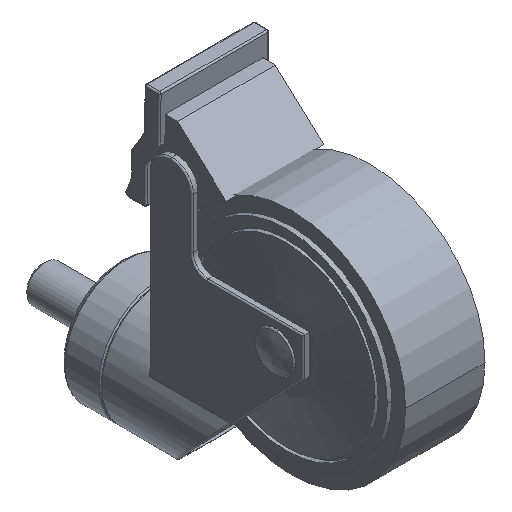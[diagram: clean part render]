
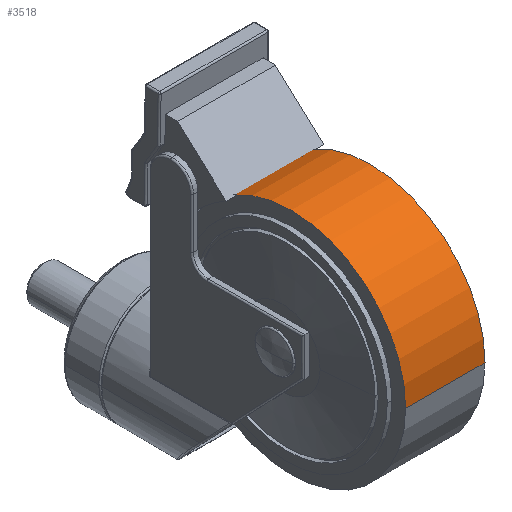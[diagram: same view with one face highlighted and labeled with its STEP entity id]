
A CAD part, isometric view. The second image highlights one B-rep face of the part: STEP entity #3518.
In plain terms, the highlighted cylindrical face has radius 37.5 mm (diameter 75 mm), a partial arc.
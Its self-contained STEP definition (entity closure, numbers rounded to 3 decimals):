
#164 = CARTESIAN_POINT ( 'NONE',  ( -13., 0., 37.5 ) ) ;
#196 = CARTESIAN_POINT ( 'NONE',  ( -13., 0., -37.5 ) ) ;
#197 = CARTESIAN_POINT ( 'NONE',  ( 13., 0., 37.5 ) ) ;
#198 = CARTESIAN_POINT ( 'NONE',  ( 13., 0., -37.5 ) ) ;
#1140 = DIRECTION ( 'NONE',  ( 0., 0., 1. ) ) ;
#1144 = DIRECTION ( 'NONE',  ( -1., 0., 0. ) ) ;
#1145 = CARTESIAN_POINT ( 'NONE',  ( -16., 0., 0. ) ) ;
#1780 = EDGE_CURVE ( 'NONE', #2405, #2437, #5561, .T. ) ;
#1789 = EDGE_CURVE ( 'NONE', #2439, #2437, #5568, .T. ) ;
#1790 = EDGE_CURVE ( 'NONE', #2438, #2439, #5574, .T. ) ;
#1791 = EDGE_CURVE ( 'NONE', #2438, #2405, #5571, .T. ) ;
#2405 = VERTEX_POINT ( 'NONE', #164 ) ;
#2437 = VERTEX_POINT ( 'NONE', #196 ) ;
#2438 = VERTEX_POINT ( 'NONE', #197 ) ;
#2439 = VERTEX_POINT ( 'NONE', #198 ) ;
#3207 = CARTESIAN_POINT ( 'NONE',  ( -13., 0., 0. ) ) ;
#3208 = DIRECTION ( 'NONE',  ( -1., 0., 0. ) ) ;
#3209 = DIRECTION ( 'NONE',  ( 0., 0., 1. ) ) ;
#3228 = CARTESIAN_POINT ( 'NONE',  ( -16., 0., -37.5 ) ) ;
#3229 = DIRECTION ( 'NONE',  ( -1., 0., 0. ) ) ;
#3230 = CARTESIAN_POINT ( 'NONE',  ( 13., 0., 0. ) ) ;
#3231 = DIRECTION ( 'NONE',  ( -1., 0., 0. ) ) ;
#3232 = DIRECTION ( 'NONE',  ( 0., 0., 1. ) ) ;
#3234 = CARTESIAN_POINT ( 'NONE',  ( -16., 0., 37.5 ) ) ;
#3235 = DIRECTION ( 'NONE',  ( -1., 0., 0. ) ) ;
#3518 = ADVANCED_FACE ( 'NONE', ( #5867 ), #5876, .T. ) ;
#4043 = EDGE_LOOP ( 'NONE', ( #4160, #4161, #4162, #4163 ) ) ;
#4160 = ORIENTED_EDGE ( 'NONE', *, *, #1790, .T. ) ;
#4161 = ORIENTED_EDGE ( 'NONE', *, *, #1789, .T. ) ;
#4162 = ORIENTED_EDGE ( 'NONE', *, *, #1780, .F. ) ;
#4163 = ORIENTED_EDGE ( 'NONE', *, *, #1791, .F. ) ;
#5004 = AXIS2_PLACEMENT_3D ( 'NONE', #3207, #3208, #3209 ) ;
#5009 = AXIS2_PLACEMENT_3D ( 'NONE', #3230, #3231, #3232 ) ;
#5178 = AXIS2_PLACEMENT_3D ( 'NONE', #1145, #1144, #1140 ) ;
#5561 = CIRCLE ( 'NONE', #5004, 37.5 ) ;
#5568 = LINE ( 'NONE', #3228, #5569 ) ;
#5569 = VECTOR ( 'NONE', #3229, 1000. ) ;
#5571 = LINE ( 'NONE', #3234, #5572 ) ;
#5572 = VECTOR ( 'NONE', #3235, 1000. ) ;
#5574 = CIRCLE ( 'NONE', #5009, 37.5 ) ;
#5867 = FACE_OUTER_BOUND ( 'NONE', #4043, .T. ) ;
#5876 = CYLINDRICAL_SURFACE ( 'NONE', #5178, 37.5 ) ;
